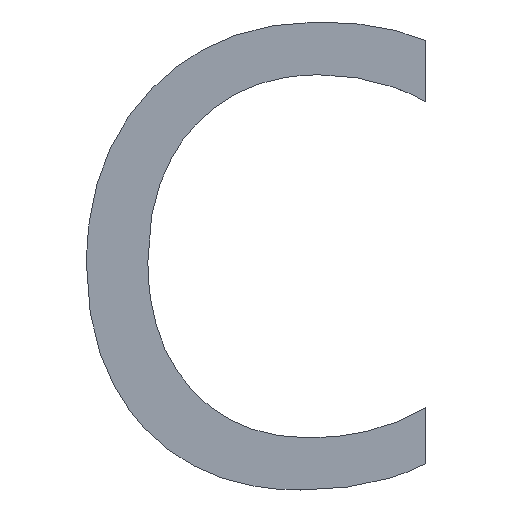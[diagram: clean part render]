
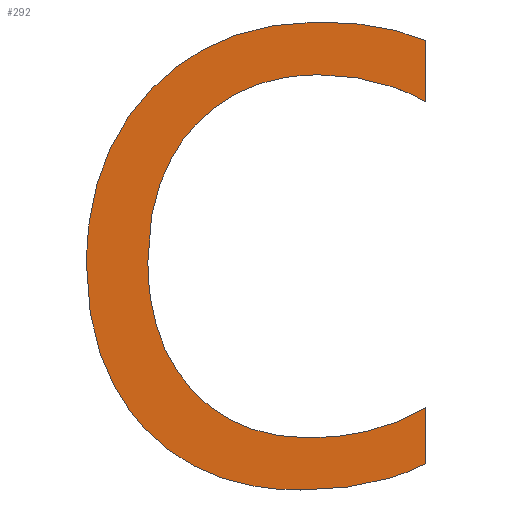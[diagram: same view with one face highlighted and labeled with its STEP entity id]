
A CAD part, top view. The second image highlights one B-rep face of the part: STEP entity #292.
In plain terms, the highlighted planar face has unit normal (0, 0, 1).
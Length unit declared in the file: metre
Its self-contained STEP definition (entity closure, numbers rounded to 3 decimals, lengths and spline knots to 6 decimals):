
#26=LINE('',#521,#44);
#27=LINE('',#553,#45);
#44=VECTOR('',#428,1.);
#45=VECTOR('',#429,1.);
#74=ORIENTED_EDGE('',*,*,#158,.T.);
#75=ORIENTED_EDGE('',*,*,#159,.T.);
#76=ORIENTED_EDGE('',*,*,#160,.T.);
#77=ORIENTED_EDGE('',*,*,#161,.T.);
#78=ORIENTED_EDGE('',*,*,#162,.T.);
#79=ORIENTED_EDGE('',*,*,#163,.T.);
#80=ORIENTED_EDGE('',*,*,#164,.T.);
#81=ORIENTED_EDGE('',*,*,#165,.T.);
#82=ORIENTED_EDGE('',*,*,#166,.T.);
#83=ORIENTED_EDGE('',*,*,#167,.T.);
#84=ORIENTED_EDGE('',*,*,#168,.T.);
#85=ORIENTED_EDGE('',*,*,#169,.T.);
#86=ORIENTED_EDGE('',*,*,#170,.T.);
#87=ORIENTED_EDGE('',*,*,#171,.T.);
#158=EDGE_CURVE('',#200,#201,#226,.T.);
#159=EDGE_CURVE('',#201,#202,#26,.T.);
#160=EDGE_CURVE('',#202,#203,#227,.T.);
#161=EDGE_CURVE('',#203,#204,#228,.T.);
#162=EDGE_CURVE('',#204,#205,#229,.T.);
#163=EDGE_CURVE('',#205,#206,#230,.T.);
#164=EDGE_CURVE('',#206,#207,#231,.T.);
#165=EDGE_CURVE('',#207,#208,#232,.T.);
#166=EDGE_CURVE('',#208,#209,#27,.T.);
#167=EDGE_CURVE('',#209,#210,#233,.T.);
#168=EDGE_CURVE('',#210,#211,#234,.T.);
#169=EDGE_CURVE('',#211,#212,#235,.T.);
#170=EDGE_CURVE('',#212,#213,#236,.T.);
#171=EDGE_CURVE('',#213,#200,#237,.T.);
#200=VERTEX_POINT('',#519);
#201=VERTEX_POINT('',#520);
#202=VERTEX_POINT('',#522);
#203=VERTEX_POINT('',#527);
#204=VERTEX_POINT('',#532);
#205=VERTEX_POINT('',#537);
#206=VERTEX_POINT('',#542);
#207=VERTEX_POINT('',#547);
#208=VERTEX_POINT('',#552);
#209=VERTEX_POINT('',#554);
#210=VERTEX_POINT('',#559);
#211=VERTEX_POINT('',#564);
#212=VERTEX_POINT('',#569);
#213=VERTEX_POINT('',#574);
#226=B_SPLINE_CURVE_WITH_KNOTS('',3,(#515,#516,#517,#518),.UNSPECIFIED.,
 .F.,.F.,(4,4),(0.,1.),.UNSPECIFIED.);
#227=B_SPLINE_CURVE_WITH_KNOTS('',3,(#523,#524,#525,#526),.UNSPECIFIED.,
 .F.,.F.,(4,4),(12.,13.),.UNSPECIFIED.);
#228=B_SPLINE_CURVE_WITH_KNOTS('',3,(#528,#529,#530,#531),.UNSPECIFIED.,
 .F.,.F.,(4,4),(11.,12.),.UNSPECIFIED.);
#229=B_SPLINE_CURVE_WITH_KNOTS('',3,(#533,#534,#535,#536),.UNSPECIFIED.,
 .F.,.F.,(4,4),(10.,11.),.UNSPECIFIED.);
#230=B_SPLINE_CURVE_WITH_KNOTS('',3,(#538,#539,#540,#541),.UNSPECIFIED.,
 .F.,.F.,(4,4),(9.,10.),.UNSPECIFIED.);
#231=B_SPLINE_CURVE_WITH_KNOTS('',3,(#543,#544,#545,#546),.UNSPECIFIED.,
 .F.,.F.,(4,4),(8.,9.),.UNSPECIFIED.);
#232=B_SPLINE_CURVE_WITH_KNOTS('',3,(#548,#549,#550,#551),.UNSPECIFIED.,
 .F.,.F.,(4,4),(7.,8.),.UNSPECIFIED.);
#233=B_SPLINE_CURVE_WITH_KNOTS('',3,(#555,#556,#557,#558),.UNSPECIFIED.,
 .F.,.F.,(4,4),(5.,6.),.UNSPECIFIED.);
#234=B_SPLINE_CURVE_WITH_KNOTS('',3,(#560,#561,#562,#563),.UNSPECIFIED.,
 .F.,.F.,(4,4),(4.,5.),.UNSPECIFIED.);
#235=B_SPLINE_CURVE_WITH_KNOTS('',3,(#565,#566,#567,#568),.UNSPECIFIED.,
 .F.,.F.,(4,4),(3.,4.),.UNSPECIFIED.);
#236=B_SPLINE_CURVE_WITH_KNOTS('',3,(#570,#571,#572,#573),.UNSPECIFIED.,
 .F.,.F.,(4,4),(2.,3.),.UNSPECIFIED.);
#237=B_SPLINE_CURVE_WITH_KNOTS('',3,(#575,#576,#577,#578),.UNSPECIFIED.,
 .F.,.F.,(4,4),(1.,2.),.UNSPECIFIED.);
#239=EDGE_LOOP('',(#74,#75,#76,#77,#78,#79,#80,#81,#82,#83,#84,#85,#86,
#87));
#255=FACE_BOUND('',#239,.T.);
#271=PLANE('',#417);
#292=ADVANCED_FACE('',(#255),#271,.T.);
#417=AXIS2_PLACEMENT_3D('',#514,#426,#427);
#426=DIRECTION('',(0.,0.,1.));
#427=DIRECTION('',(1.,0.,0.));
#428=DIRECTION('',(0.,1.,0.));
#429=DIRECTION('',(0.,1.,0.));
#514=CARTESIAN_POINT('',(-0.063794,-0.007064,0.024401));
#515=CARTESIAN_POINT('',(-0.063915,-0.007075,0.024401));
#516=CARTESIAN_POINT('',(-0.063827,-0.007075,0.024401));
#517=CARTESIAN_POINT('',(-0.063754,-0.00706,0.024401));
#518=CARTESIAN_POINT('',(-0.063695,-0.007029,0.024401));
#519=CARTESIAN_POINT('',(-0.063915,-0.007075,0.024401));
#520=CARTESIAN_POINT('',(-0.063695,-0.007029,0.024401));
#521=CARTESIAN_POINT('',(-0.063695,-0.006931,0.024401));
#522=CARTESIAN_POINT('',(-0.063695,-0.006931,0.024401));
#523=CARTESIAN_POINT('',(-0.063695,-0.006931,0.024401));
#524=CARTESIAN_POINT('',(-0.063753,-0.006966,0.024401));
#525=CARTESIAN_POINT('',(-0.063822,-0.006984,0.024401));
#526=CARTESIAN_POINT('',(-0.0639,-0.006984,0.024401));
#527=CARTESIAN_POINT('',(-0.0639,-0.006984,0.024401));
#528=CARTESIAN_POINT('',(-0.0639,-0.006984,0.024401));
#529=CARTESIAN_POINT('',(-0.063984,-0.006984,0.024401));
#530=CARTESIAN_POINT('',(-0.064052,-0.006956,0.024401));
#531=CARTESIAN_POINT('',(-0.064104,-0.0069,0.024401));
#532=CARTESIAN_POINT('',(-0.064104,-0.0069,0.024401));
#533=CARTESIAN_POINT('',(-0.064104,-0.0069,0.024401));
#534=CARTESIAN_POINT('',(-0.064156,-0.006844,0.024401));
#535=CARTESIAN_POINT('',(-0.064182,-0.006769,0.024401));
#536=CARTESIAN_POINT('',(-0.064182,-0.006674,0.024401));
#537=CARTESIAN_POINT('',(-0.064182,-0.006674,0.024401));
#538=CARTESIAN_POINT('',(-0.064182,-0.006674,0.024401));
#539=CARTESIAN_POINT('',(-0.064182,-0.006574,0.024401));
#540=CARTESIAN_POINT('',(-0.064154,-0.006495,0.024401));
#541=CARTESIAN_POINT('',(-0.064098,-0.006436,0.024401));
#542=CARTESIAN_POINT('',(-0.064098,-0.006436,0.024401));
#543=CARTESIAN_POINT('',(-0.064098,-0.006436,0.024401));
#544=CARTESIAN_POINT('',(-0.064043,-0.006377,0.024401));
#545=CARTESIAN_POINT('',(-0.063971,-0.006348,0.024401));
#546=CARTESIAN_POINT('',(-0.063882,-0.006348,0.024401));
#547=CARTESIAN_POINT('',(-0.063882,-0.006348,0.024401));
#548=CARTESIAN_POINT('',(-0.063882,-0.006348,0.024401));
#549=CARTESIAN_POINT('',(-0.063814,-0.006348,0.024401));
#550=CARTESIAN_POINT('',(-0.063752,-0.006363,0.024401));
#551=CARTESIAN_POINT('',(-0.063695,-0.006395,0.024401));
#552=CARTESIAN_POINT('',(-0.063695,-0.006395,0.024401));
#553=CARTESIAN_POINT('',(-0.063695,-0.006288,0.024401));
#554=CARTESIAN_POINT('',(-0.063695,-0.006288,0.024401));
#555=CARTESIAN_POINT('',(-0.063695,-0.006288,0.024401));
#556=CARTESIAN_POINT('',(-0.063745,-0.006266,0.024401));
#557=CARTESIAN_POINT('',(-0.063807,-0.006255,0.024401));
#558=CARTESIAN_POINT('',(-0.063883,-0.006255,0.024401));
#559=CARTESIAN_POINT('',(-0.063883,-0.006255,0.024401));
#560=CARTESIAN_POINT('',(-0.063883,-0.006255,0.024401));
#561=CARTESIAN_POINT('',(-0.064001,-0.006255,0.024401));
#562=CARTESIAN_POINT('',(-0.064098,-0.006294,0.024401));
#563=CARTESIAN_POINT('',(-0.064175,-0.006372,0.024401));
#564=CARTESIAN_POINT('',(-0.064175,-0.006372,0.024401));
#565=CARTESIAN_POINT('',(-0.064175,-0.006372,0.024401));
#566=CARTESIAN_POINT('',(-0.064251,-0.00645,0.024401));
#567=CARTESIAN_POINT('',(-0.064289,-0.006552,0.024401));
#568=CARTESIAN_POINT('',(-0.064289,-0.00668,0.024401));
#569=CARTESIAN_POINT('',(-0.064289,-0.00668,0.024401));
#570=CARTESIAN_POINT('',(-0.064289,-0.00668,0.024401));
#571=CARTESIAN_POINT('',(-0.064289,-0.006799,0.024401));
#572=CARTESIAN_POINT('',(-0.064255,-0.006895,0.024401));
#573=CARTESIAN_POINT('',(-0.064187,-0.006967,0.024401));
#574=CARTESIAN_POINT('',(-0.064187,-0.006967,0.024401));
#575=CARTESIAN_POINT('',(-0.064187,-0.006967,0.024401));
#576=CARTESIAN_POINT('',(-0.064119,-0.007039,0.024401));
#577=CARTESIAN_POINT('',(-0.064029,-0.007075,0.024401));
#578=CARTESIAN_POINT('',(-0.063915,-0.007075,0.024401));
